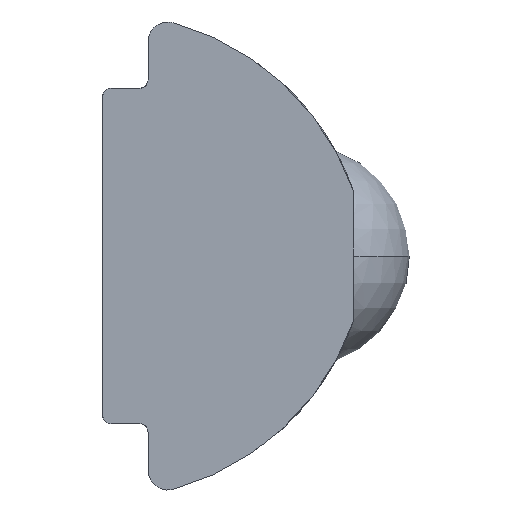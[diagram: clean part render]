
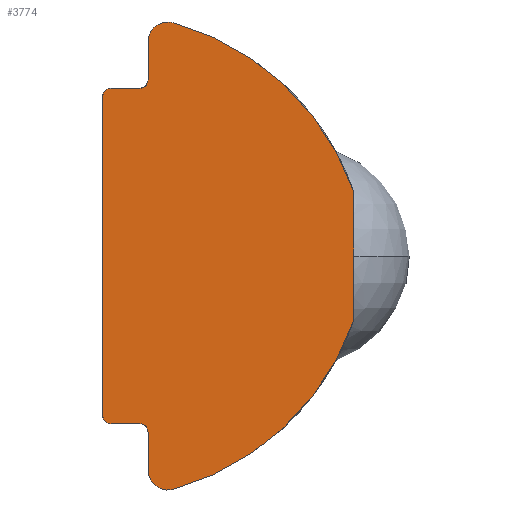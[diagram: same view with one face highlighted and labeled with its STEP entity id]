
A CAD part, left-side view. The second image highlights one B-rep face of the part: STEP entity #3774.
In plain terms, the highlighted planar face has unit normal (-1, 0, 0).
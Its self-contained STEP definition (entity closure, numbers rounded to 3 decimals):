
#70 = EDGE_CURVE ( 'NONE', #4731, #9048, #5823, .T. ) ;
#79 = CIRCLE ( 'NONE', #236, 4.678 ) ;
#110 = VERTEX_POINT ( 'NONE', #6289 ) ;
#162 = CARTESIAN_POINT ( 'NONE',  ( 0., 4.42, 2.95 ) ) ;
#212 = EDGE_CURVE ( 'NONE', #4507, #7881, #7544, .T. ) ;
#236 = AXIS2_PLACEMENT_3D ( 'NONE', #5539, #9121, #5586 ) ;
#238 = CARTESIAN_POINT ( 'NONE',  ( 0., 4.27, -2.95 ) ) ;
#256 = LINE ( 'NONE', #162, #702 ) ;
#411 = CARTESIAN_POINT ( 'NONE',  ( 0., 3.27, 4.12 ) ) ;
#474 = EDGE_CURVE ( 'NONE', #8081, #634, #842, .T. ) ;
#578 = VERTEX_POINT ( 'NONE', #8682 ) ;
#603 = CARTESIAN_POINT ( 'NONE',  ( 0., 4.27, -2.8 ) ) ;
#634 = VERTEX_POINT ( 'NONE', #5714 ) ;
#702 = VECTOR ( 'NONE', #5306, 1000. ) ;
#811 = VERTEX_POINT ( 'NONE', #6512 ) ;
#842 = CIRCLE ( 'NONE', #8527, 0.35 ) ;
#874 = FACE_OUTER_BOUND ( 'NONE', #4363, .T. ) ;
#933 = ORIENTED_EDGE ( 'NONE', *, *, #212, .F. ) ;
#1007 = VECTOR ( 'NONE', #1192, 1000. ) ;
#1192 = DIRECTION ( 'NONE',  ( 0., -1., 0. ) ) ;
#1278 = DIRECTION ( 'NONE',  ( 0., 0., -1. ) ) ;
#1472 = CARTESIAN_POINT ( 'NONE',  ( 0., 4.27, 2.95 ) ) ;
#1636 = ORIENTED_EDGE ( 'NONE', *, *, #8136, .F. ) ;
#1641 = DIRECTION ( 'NONE',  ( 1., 0., 0. ) ) ;
#1666 = CARTESIAN_POINT ( 'NONE',  ( 0., 3.27, 3.77 ) ) ;
#1706 = LINE ( 'NONE', #5179, #3259 ) ;
#1708 = CARTESIAN_POINT ( 'NONE',  ( 0., 3.177, -4.107 ) ) ;
#1733 = EDGE_CURVE ( 'NONE', #3557, #7881, #6565, .T. ) ;
#1813 = DIRECTION ( 'NONE',  ( 0., 0., -1. ) ) ;
#2207 = CARTESIAN_POINT ( 'NONE',  ( 0., 3.62, 3.1 ) ) ;
#2267 = VERTEX_POINT ( 'NONE', #8920 ) ;
#2304 = DIRECTION ( 'NONE',  ( 0., 0., -1. ) ) ;
#2343 = ORIENTED_EDGE ( 'NONE', *, *, #8942, .F. ) ;
#2571 = DIRECTION ( 'NONE',  ( 1., 0., 0. ) ) ;
#2589 = CARTESIAN_POINT ( 'NONE',  ( 0., 3.77, -2.95 ) ) ;
#2628 = ORIENTED_EDGE ( 'NONE', *, *, #4974, .F. ) ;
#2636 = CARTESIAN_POINT ( 'NONE',  ( 0., 3.27, -3.77 ) ) ;
#2750 = DIRECTION ( 'NONE',  ( -1., 0., 0. ) ) ;
#2783 = DIRECTION ( 'NONE',  ( -1., 0., 0. ) ) ;
#2911 = ORIENTED_EDGE ( 'NONE', *, *, #70, .T. ) ;
#2925 = ORIENTED_EDGE ( 'NONE', *, *, #5458, .T. ) ;
#2997 = EDGE_CURVE ( 'NONE', #8359, #6574, #7443, .T. ) ;
#3197 = DIRECTION ( 'NONE',  ( 0., 0., -1. ) ) ;
#3259 = VECTOR ( 'NONE', #5135, 1000. ) ;
#3557 = VERTEX_POINT ( 'NONE', #2207 ) ;
#3575 = LINE ( 'NONE', #9265, #6720 ) ;
#3727 = EDGE_CURVE ( 'NONE', #6574, #8065, #5656, .T. ) ;
#3759 = PLANE ( 'NONE',  #5204 ) ;
#3774 = ADVANCED_FACE ( 'NONE', ( #874 ), #3759, .F. ) ;
#3832 = DIRECTION ( 'NONE',  ( 1., 0., 0. ) ) ;
#3875 = ORIENTED_EDGE ( 'NONE', *, *, #3727, .T. ) ;
#3976 = CARTESIAN_POINT ( 'NONE',  ( 0., 3.77, 3.1 ) ) ;
#4016 = AXIS2_PLACEMENT_3D ( 'NONE', #1666, #3832, #4532 ) ;
#4054 = EDGE_CURVE ( 'NONE', #5435, #4731, #6440, .T. ) ;
#4138 = CARTESIAN_POINT ( 'NONE',  ( 0., 4.42, -2.95 ) ) ;
#4363 = EDGE_LOOP ( 'NONE', ( #5036, #4553, #4656, #2911, #2925, #8225, #3875, #2343, #2628, #5509, #1636, #5589, #8860, #933, #8077 ) ) ;
#4466 = CIRCLE ( 'NONE', #8973, 0.15 ) ;
#4507 = VERTEX_POINT ( 'NONE', #1472 ) ;
#4509 = DIRECTION ( 'NONE',  ( -1., 0., 0. ) ) ;
#4532 = DIRECTION ( 'NONE',  ( 0., 0., -1. ) ) ;
#4553 = ORIENTED_EDGE ( 'NONE', *, *, #7444, .T. ) ;
#4656 = ORIENTED_EDGE ( 'NONE', *, *, #4054, .T. ) ;
#4731 = VERTEX_POINT ( 'NONE', #2589 ) ;
#4974 = EDGE_CURVE ( 'NONE', #634, #110, #79, .T. ) ;
#5032 = CARTESIAN_POINT ( 'NONE',  ( 0., 3.77, 2.95 ) ) ;
#5036 = ORIENTED_EDGE ( 'NONE', *, *, #9135, .T. ) ;
#5135 = DIRECTION ( 'NONE',  ( 0., 0., 1. ) ) ;
#5179 = CARTESIAN_POINT ( 'NONE',  ( 0., 3.62, 2.95 ) ) ;
#5204 = AXIS2_PLACEMENT_3D ( 'NONE', #6622, #1641, #3197 ) ;
#5306 = DIRECTION ( 'NONE',  ( 0., 0., -1. ) ) ;
#5385 = EDGE_CURVE ( 'NONE', #3557, #811, #1706, .T. ) ;
#5435 = VERTEX_POINT ( 'NONE', #238 ) ;
#5458 = EDGE_CURVE ( 'NONE', #9048, #8359, #7349, .T. ) ;
#5509 = ORIENTED_EDGE ( 'NONE', *, *, #474, .F. ) ;
#5517 = CIRCLE ( 'NONE', #4016, 0.35 ) ;
#5539 = CARTESIAN_POINT ( 'NONE',  ( 0., 4.42, -0.403 ) ) ;
#5568 = DIRECTION ( 'NONE',  ( 1., 0., 0. ) ) ;
#5586 = DIRECTION ( 'NONE',  ( 0., 0., -1. ) ) ;
#5589 = ORIENTED_EDGE ( 'NONE', *, *, #5385, .F. ) ;
#5656 = CIRCLE ( 'NONE', #6261, 4.678 ) ;
#5714 = CARTESIAN_POINT ( 'NONE',  ( 0., 3.177, 4.107 ) ) ;
#5823 = CIRCLE ( 'NONE', #6421, 0.15 ) ;
#6147 = CARTESIAN_POINT ( 'NONE',  ( 0., 3.27, 3.77 ) ) ;
#6237 = DIRECTION ( 'NONE',  ( 1., 0., 0. ) ) ;
#6247 = EDGE_CURVE ( 'NONE', #4507, #578, #7297, .T. ) ;
#6261 = AXIS2_PLACEMENT_3D ( 'NONE', #6669, #4509, #8746 ) ;
#6266 = AXIS2_PLACEMENT_3D ( 'NONE', #6547, #2750, #8861 ) ;
#6269 = DIRECTION ( 'NONE',  ( 0., 0., -1. ) ) ;
#6289 = CARTESIAN_POINT ( 'NONE',  ( 0., 0., 1.13 ) ) ;
#6421 = AXIS2_PLACEMENT_3D ( 'NONE', #7586, #5568, #1278 ) ;
#6440 = LINE ( 'NONE', #4138, #6854 ) ;
#6512 = CARTESIAN_POINT ( 'NONE',  ( 0., 3.62, 3.77 ) ) ;
#6547 = CARTESIAN_POINT ( 'NONE',  ( 0., 4.27, 2.8 ) ) ;
#6565 = CIRCLE ( 'NONE', #9257, 0.15 ) ;
#6574 = VERTEX_POINT ( 'NONE', #1708 ) ;
#6622 = CARTESIAN_POINT ( 'NONE',  ( 0., 3.27, 3.77 ) ) ;
#6669 = CARTESIAN_POINT ( 'NONE',  ( 0., 4.42, 0.403 ) ) ;
#6720 = VECTOR ( 'NONE', #2304, 1000. ) ;
#6854 = VECTOR ( 'NONE', #7896, 1000. ) ;
#7004 = VECTOR ( 'NONE', #8063, 1000. ) ;
#7091 = CARTESIAN_POINT ( 'NONE',  ( 0., 3.62, -3.1 ) ) ;
#7287 = AXIS2_PLACEMENT_3D ( 'NONE', #2636, #7480, #7523 ) ;
#7297 = CIRCLE ( 'NONE', #6266, 0.15 ) ;
#7349 = LINE ( 'NONE', #8774, #7004 ) ;
#7443 = CIRCLE ( 'NONE', #7287, 0.35 ) ;
#7444 = EDGE_CURVE ( 'NONE', #2267, #5435, #4466, .T. ) ;
#7480 = DIRECTION ( 'NONE',  ( -1., 0., 0. ) ) ;
#7523 = DIRECTION ( 'NONE',  ( 0., 0., 1. ) ) ;
#7544 = LINE ( 'NONE', #8311, #1007 ) ;
#7586 = CARTESIAN_POINT ( 'NONE',  ( 0., 3.77, -3.1 ) ) ;
#7881 = VERTEX_POINT ( 'NONE', #5032 ) ;
#7896 = DIRECTION ( 'NONE',  ( 0., -1., 0. ) ) ;
#8063 = DIRECTION ( 'NONE',  ( 0., 0., -1. ) ) ;
#8065 = VERTEX_POINT ( 'NONE', #8866 ) ;
#8077 = ORIENTED_EDGE ( 'NONE', *, *, #6247, .T. ) ;
#8081 = VERTEX_POINT ( 'NONE', #411 ) ;
#8136 = EDGE_CURVE ( 'NONE', #811, #8081, #5517, .T. ) ;
#8225 = ORIENTED_EDGE ( 'NONE', *, *, #2997, .T. ) ;
#8311 = CARTESIAN_POINT ( 'NONE',  ( 0., 4.42, 2.95 ) ) ;
#8359 = VERTEX_POINT ( 'NONE', #8898 ) ;
#8527 = AXIS2_PLACEMENT_3D ( 'NONE', #6147, #2571, #9062 ) ;
#8682 = CARTESIAN_POINT ( 'NONE',  ( 0., 4.42, 2.8 ) ) ;
#8746 = DIRECTION ( 'NONE',  ( 0., 0., 1. ) ) ;
#8774 = CARTESIAN_POINT ( 'NONE',  ( 0., 3.62, -2.95 ) ) ;
#8860 = ORIENTED_EDGE ( 'NONE', *, *, #1733, .T. ) ;
#8861 = DIRECTION ( 'NONE',  ( 0., 0., -1. ) ) ;
#8866 = CARTESIAN_POINT ( 'NONE',  ( 0., 0., -1.13 ) ) ;
#8898 = CARTESIAN_POINT ( 'NONE',  ( 0., 3.62, -3.77 ) ) ;
#8920 = CARTESIAN_POINT ( 'NONE',  ( 0., 4.42, -2.8 ) ) ;
#8942 = EDGE_CURVE ( 'NONE', #110, #8065, #3575, .T. ) ;
#8973 = AXIS2_PLACEMENT_3D ( 'NONE', #603, #2783, #6269 ) ;
#9048 = VERTEX_POINT ( 'NONE', #7091 ) ;
#9062 = DIRECTION ( 'NONE',  ( 0., 0., -1. ) ) ;
#9121 = DIRECTION ( 'NONE',  ( 1., 0., 0. ) ) ;
#9135 = EDGE_CURVE ( 'NONE', #578, #2267, #256, .T. ) ;
#9257 = AXIS2_PLACEMENT_3D ( 'NONE', #3976, #6237, #1813 ) ;
#9265 = CARTESIAN_POINT ( 'NONE',  ( 0., 0., 1.13 ) ) ;
